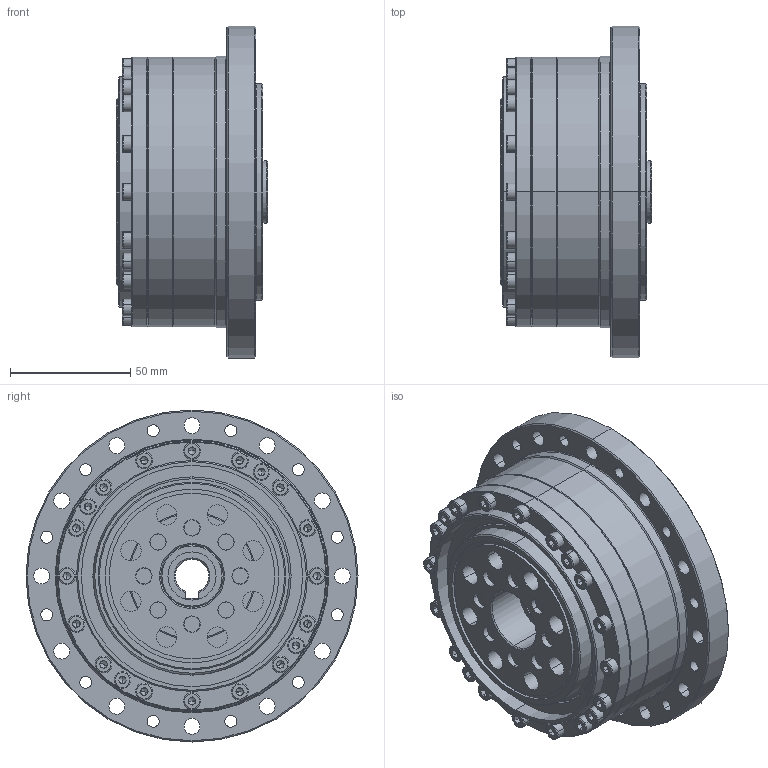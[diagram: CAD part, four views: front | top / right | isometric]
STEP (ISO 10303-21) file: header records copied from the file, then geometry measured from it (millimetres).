
FILE_DESCRIPTION (( 'STEP AP203' ), '1' );
FILE_NAME ('LCS-32-XXX-C-II.STEP', '2016-08-17T08:07:20', ( 'Windows 蚚誧' ), ( 'Users' ), 'SwSTEP 2.0', 'SolidWorks 2013', '' );
FILE_SCHEMA (( 'CONFIG_CONTROL_DESIGN' ));
Length unit declared in the file: millimetre
Products named in the file (17): socket head cap screw_din_内六角圆柱头螺钉M4 x 25; 柔性轴承RZC-32; socket head cap screw_din_内六角圆柱头螺钉M4 x 16; 粣噤25; LCS-32-XXX-C-II; 疏楷汜ん32-II; LJ-32-II; LCS-32-XXX-P04-II; SZ-32-II; LCS-32-XXX-P02-II; LCS-32-XXX-P03-II; LCS-32-XXX-P01-II; DB-32-II; LCS-32-XXX-P05-II; RZC-32内外圈+钢球; socket head cap screw_din_DIN 912 M8 x 25 --- 25N; RZC-32悵厥殤
Assembly tree (41 placements, depth 4):
  LCS-32-XXX-C-II
    疏楷汜ん32-II
      LJ-32-II
      SZ-32-II
      LCS-32-XXX-P03-II
      DB-32-II
      柔性轴承RZC-32
        RZC-32内外圈+钢球
        RZC-32悵厥殤
      粣噤25
    LCS-32-XXX-P04-II
    LCS-32-XXX-P02-II
    LCS-32-XXX-P01-II
    LCS-32-XXX-P05-II
    socket head cap screw_din_DIN 912 M8 x 25 --- 25N  x8
    socket head cap screw_din_内六角圆柱头螺钉M4 x 25  x16
    socket head cap screw_din_内六角圆柱头螺钉M4 x 16  x4
Bounding box: 63 x 138 x 138 mm (x, y, z)
Volume: 429300.1 mm3; surface area: 210830.9 mm2
Topology: 64 solids, 65 shells, 1507 faces, 3561 edges, 2153 vertices
Faces by surface type: plane 566, cylinder 500, cone 245, torus 150, sphere 46
Entity records: 27319 total; most frequent: DIRECTION 4852, CARTESIAN_POINT 4215, ORIENTED_EDGE 3916, AXIS2_PLACEMENT_3D 2056, EDGE_CURVE 1958, VERTEX_POINT 1259, CIRCLE 1178, EDGE_LOOP 1067
